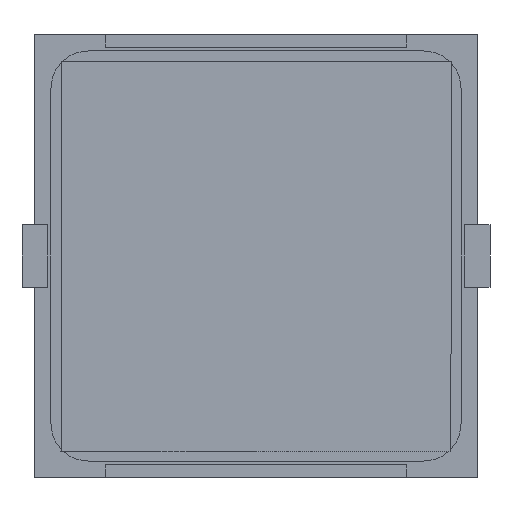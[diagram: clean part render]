
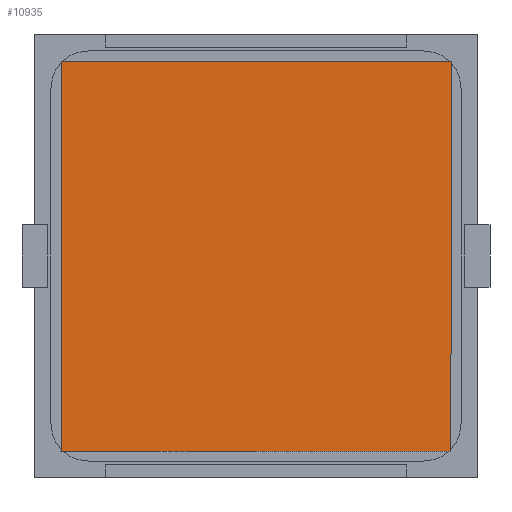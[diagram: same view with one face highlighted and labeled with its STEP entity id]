
A CAD part, front view. The second image highlights one B-rep face of the part: STEP entity #10935.
In plain terms, the highlighted planar face has unit normal (0, -1, 0).
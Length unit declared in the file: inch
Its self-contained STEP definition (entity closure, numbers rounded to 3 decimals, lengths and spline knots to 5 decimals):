
#114 = LINE ( 'NONE', #6594, #1965 ) ;
#419 = DIRECTION ( 'NONE',  ( 0., 0., 1. ) ) ;
#811 = CARTESIAN_POINT ( 'NONE',  ( -0.61024, -0.005, -0.61024 ) ) ;
#893 = LINE ( 'NONE', #6477, #4164 ) ;
#926 = VERTEX_POINT ( 'NONE', #4404 ) ;
#985 = LINE ( 'NONE', #8379, #5731 ) ;
#1965 = VECTOR ( 'NONE', #4390, 39.37008 ) ;
#2112 = EDGE_LOOP ( 'NONE', ( #4997, #4464, #7610, #8448 ) ) ;
#2141 = CARTESIAN_POINT ( 'NONE',  ( -0.61024, -0.005, 0.61024 ) ) ;
#2256 = DIRECTION ( 'NONE',  ( -1., 0., 0. ) ) ;
#3932 = EDGE_CURVE ( 'NONE', #5841, #11005, #893, .T. ) ;
#4083 = DIRECTION ( 'NONE',  ( 1., 0., 0. ) ) ;
#4164 = VECTOR ( 'NONE', #2256, 39.37008 ) ;
#4390 = DIRECTION ( 'NONE',  ( 0., 0., 1. ) ) ;
#4404 = CARTESIAN_POINT ( 'NONE',  ( 0.61024, -0.005, 0.61024 ) ) ;
#4464 = ORIENTED_EDGE ( 'NONE', *, *, #3932, .F. ) ;
#4997 = ORIENTED_EDGE ( 'NONE', *, *, #7996, .F. ) ;
#5288 = CARTESIAN_POINT ( 'NONE',  ( -0.61024, -0.005, 0.61024 ) ) ;
#5472 = FACE_OUTER_BOUND ( 'NONE', #2112, .T. ) ;
#5731 = VECTOR ( 'NONE', #8572, 39.37008 ) ;
#5841 = VERTEX_POINT ( 'NONE', #13158 ) ;
#6477 = CARTESIAN_POINT ( 'NONE',  ( -0.61024, -0.005, -0.61024 ) ) ;
#6594 = CARTESIAN_POINT ( 'NONE',  ( -0.61024, -0.005, -0.61024 ) ) ;
#7390 = LINE ( 'NONE', #2141, #10392 ) ;
#7610 = ORIENTED_EDGE ( 'NONE', *, *, #10648, .F. ) ;
#7996 = EDGE_CURVE ( 'NONE', #11005, #10658, #114, .T. ) ;
#8379 = CARTESIAN_POINT ( 'NONE',  ( 0.61024, -0.005, -0.61024 ) ) ;
#8448 = ORIENTED_EDGE ( 'NONE', *, *, #13419, .F. ) ;
#8572 = DIRECTION ( 'NONE',  ( 0., 0., -1. ) ) ;
#9478 = AXIS2_PLACEMENT_3D ( 'NONE', #9846, #11891, #419 ) ;
#9846 = CARTESIAN_POINT ( 'NONE',  ( -0.61024, -0.005, 0.61024 ) ) ;
#10392 = VECTOR ( 'NONE', #4083, 39.37008 ) ;
#10648 = EDGE_CURVE ( 'NONE', #926, #5841, #985, .T. ) ;
#10658 = VERTEX_POINT ( 'NONE', #5288 ) ;
#10673 = PLANE ( 'NONE',  #9478 ) ;
#10935 = ADVANCED_FACE ( 'NONE', ( #5472 ), #10673, .F. ) ;
#11005 = VERTEX_POINT ( 'NONE', #811 ) ;
#11891 = DIRECTION ( 'NONE',  ( 0., 1., 0. ) ) ;
#13158 = CARTESIAN_POINT ( 'NONE',  ( 0.61024, -0.005, -0.61024 ) ) ;
#13419 = EDGE_CURVE ( 'NONE', #10658, #926, #7390, .T. ) ;
